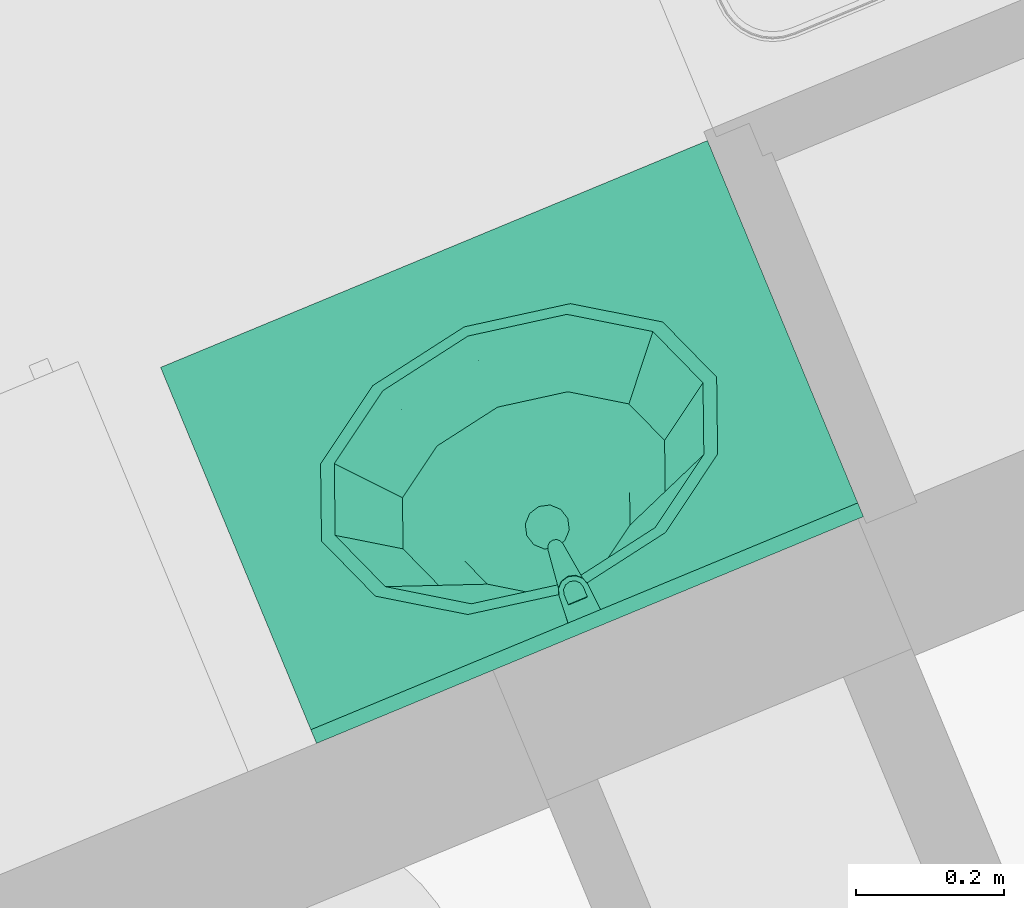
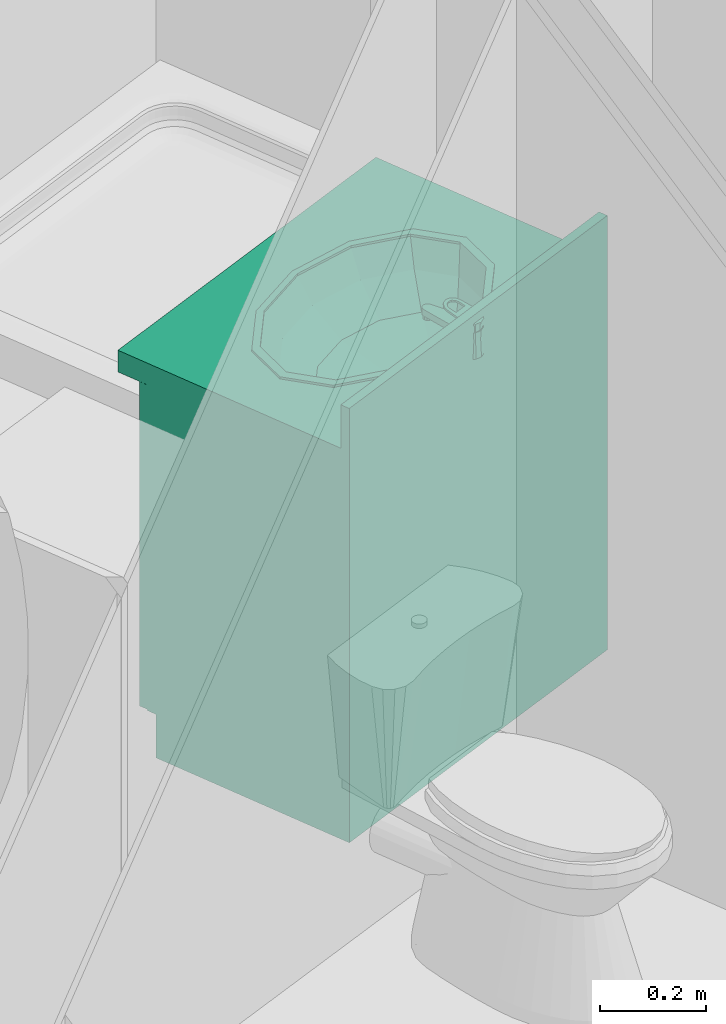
# One storey, part 68 of 90: 1 flow terminal.
"""IFC2X3 building model written with IfcOpenShell, lengths in metres."""

from ifc_helpers import new_model, entity, si_unit, converted_unit, derived_unit, money_unit, direction, frame, origin_with_axes, place, context, subcontext, project, spatial, open_shell, faceted_brep, surface_model, source, transform, mapped, type_object, element, save


model = new_model("IFC2X3")

# Units and contexts
model_context = context("Model", 3, precision=1e-05, world=origin_with_axes(), true_north=direction((0.0, 1.0)))
body_context = subcontext(model_context, "Body", "Model", "MODEL_VIEW")
ifc_project = project(units=[si_unit("LENGTHUNIT", "METRE"), si_unit("AREAUNIT", "SQUARE_METRE"), si_unit("VOLUMEUNIT", "CUBIC_METRE"), converted_unit("PLANEANGLEUNIT", "DEGREE", entity("IfcPlaneAngleMeasure", 0.0174532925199), si_unit("PLANEANGLEUNIT", "RADIAN"), dimensions=[0, 0, 0, 0, 0, 0, 0]), si_unit("SOLIDANGLEUNIT", "STERADIAN"), money_unit("EUR"), converted_unit("TIMEUNIT", "Year", entity("IfcTimeMeasure", 31556926.0), si_unit("TIMEUNIT", "SECOND"), dimensions=[0, 0, 1, 0, 0, 0, 0]), si_unit("MASSUNIT", "GRAM", prefix="KILO"), si_unit("THERMODYNAMICTEMPERATUREUNIT", "DEGREE_CELSIUS"), si_unit("LUMINOUSINTENSITYUNIT", "LUMEN"), si_unit("ENERGYUNIT", "JOULE", prefix="MEGA"), derived_unit("THERMALCONDUCTANCEUNIT", [(si_unit("POWERUNIT", "WATT"), 1), (si_unit("LENGTHUNIT", "METRE"), -1), (si_unit("THERMODYNAMICTEMPERATUREUNIT", "KELVIN"), -1)]), derived_unit("SPECIFICHEATCAPACITYUNIT", [(si_unit("ENERGYUNIT", "JOULE"), 1), (si_unit("MASSUNIT", "GRAM", prefix="KILO"), -1), (si_unit("THERMODYNAMICTEMPERATUREUNIT", "KELVIN"), -1)]), derived_unit("MASSDENSITYUNIT", [(si_unit("MASSUNIT", "GRAM", prefix="KILO"), 1), (si_unit("VOLUMEUNIT", "CUBIC_METRE"), -1)])], contexts=[model_context])

# Site, building, storey
site_placement = place(None, origin_with_axes())
site = spatial("IfcSite", under=ifc_project, at=site_placement, Name="Site", CompositionType="ELEMENT")
building_placement = place(site_placement, origin_with_axes())
building = spatial("IfcBuilding", under=site, at=building_placement, Name="Bâtiment", CompositionType="ELEMENT")
storey_placement = place(building_placement, frame((0.0, 0.0, 2.72), z_axis=(0.0, 0.0, 1.0), x_axis=(1.0, 0.0, 0.0)))
storey = spatial("IfcBuildingStorey", under=building, at=storey_placement, Name="R+1", CompositionType="ELEMENT", Elevation=2.72)

# Flow terminal
sanitary_terminal_type = type_object("IfcSanitaryTerminalType", Name="Lavabo sur meuble 23", PredefinedType="NOTDEFINED")
shared_shape = source(origin_with_axes(), body_context, "Body", "SurfaceModel", [
    faceted_brep([(0.0, 0.09, 0.0), (0.8, 0.09, 0.0), (0.8, 0.09, 0.1), (0.0, 0.09, 0.1), (0.0, 0.55, 0.0), (0.8, 0.55, 0.0), (0.8, 0.55, 0.1), (0.0, 0.55, 0.1)], [[[0, 1, 2, 3]], [[0, 4, 5, 1]], [[1, 5, 6, 2]], [[3, 2, 6, 7]], [[4, 0, 3, 7]], [[5, 4, 7, 6]]]),
    faceted_brep([(0.0, 0.07, 0.1), (0.02, 0.07, 0.1), (0.02, 0.07, 0.12), (0.0, 0.07, 0.12), (0.0, 0.55, 0.1), (0.02, 0.55, 0.1), (0.78, 0.55, 0.1), (0.8, 0.55, 0.1), (0.8, 0.07, 0.1), (0.78, 0.07, 0.1), (0.78, 0.07, 0.12), (0.8, 0.07, 0.12), (0.8, 0.55, 0.12), (0.78, 0.55, 0.12), (0.02, 0.55, 0.12), (0.0, 0.55, 0.12)], [[[0, 1, 2, 3]], [[0, 4, 5, 6, 7, 8, 9, 1]], [[1, 9, 10, 2]], [[3, 2, 10, 11, 12, 13, 14, 15]], [[4, 0, 3, 15]], [[5, 4, 15, 14]], [[6, 5, 14, 13]], [[7, 6, 13, 12]], [[8, 7, 12, 11]], [[9, 8, 11, 10]]]),
    faceted_brep([(0.0, 0.07, 0.12), (0.02, 0.07, 0.12), (0.02, 0.07, 0.85), (0.0, 0.07, 0.85), (0.0, 0.55, 0.12), (0.8, 0.55, 0.12), (0.8, 0.07, 0.12), (0.78, 0.07, 0.12), (0.78, 0.53, 0.12), (0.02, 0.53, 0.12), (0.02, 0.53, 0.85), (0.78, 0.53, 0.85), (0.78, 0.07, 0.85), (0.8, 0.07, 0.85), (0.8, 0.55, 0.85), (0.0, 0.55, 0.85)], [[[0, 1, 2, 3]], [[0, 4, 5, 6, 7, 8, 9, 1]], [[1, 9, 10, 2]], [[3, 2, 10, 11, 12, 13, 14, 15]], [[4, 0, 3, 15]], [[5, 4, 15, 14]], [[6, 5, 14, 13]], [[7, 6, 13, 12]], [[8, 7, 12, 11]], [[9, 8, 11, 10]]]),
    faceted_brep([(0.78, 0.07, 0.323333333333), (0.78, 0.53, 0.323333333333), (0.78, 0.53, 0.343333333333), (0.78, 0.07, 0.343333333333), (0.02, 0.07, 0.323333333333), (0.02, 0.53, 0.323333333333), (0.02, 0.53, 0.343333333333), (0.02, 0.07, 0.343333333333)], [[[0, 1, 2, 3]], [[0, 4, 5, 1]], [[1, 5, 6, 2]], [[3, 2, 6, 7]], [[4, 0, 3, 7]], [[5, 4, 7, 6]]]),
    faceted_brep([(0.78, 0.07, 0.566666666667), (0.78, 0.53, 0.566666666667), (0.78, 0.53, 0.586666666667), (0.78, 0.07, 0.586666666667), (0.02, 0.07, 0.566666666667), (0.02, 0.53, 0.566666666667), (0.02, 0.53, 0.586666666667), (0.02, 0.07, 0.586666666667)], [[[0, 1, 2, 3]], [[0, 4, 5, 1]], [[1, 5, 6, 2]], [[3, 2, 6, 7]], [[4, 0, 3, 7]], [[5, 4, 7, 6]]]),
    faceted_brep([(0.0, 0.55, 0.85), (0.8, 0.55, 0.85), (0.8, 0.0, 0.85), (0.0, 0.0, 0.85), (0.535, 0.144115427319, 0.85), (0.633826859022, 0.21, 0.85), (0.67, 0.3, 0.85), (0.633826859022, 0.39, 0.85), (0.535, 0.455884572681, 0.85), (0.4, 0.48, 0.85), (0.265, 0.455884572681, 0.85), (0.166173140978, 0.39, 0.85), (0.13, 0.3, 0.85), (0.166173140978, 0.21, 0.85), (0.265, 0.144115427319, 0.85), (0.4, 0.12, 0.85), (0.0, 0.55, 0.9), (0.8, 0.55, 0.9), (0.8, 0.0, 0.9), (0.0, 0.0, 0.9), (0.535, 0.144115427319, 0.9), (0.633826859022, 0.21, 0.9), (0.67, 0.3, 0.9), (0.633826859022, 0.39, 0.9), (0.535, 0.455884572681, 0.9), (0.4, 0.48, 0.9), (0.265, 0.455884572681, 0.9), (0.166173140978, 0.39, 0.9), (0.13, 0.3, 0.9), (0.166173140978, 0.21, 0.9), (0.265, 0.144115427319, 0.9), (0.4, 0.12, 0.9)], [[[0, 1, 2, 3], [4, 5, 6, 7, 8, 9, 10, 11, 12, 13, 14, 15]], [[0, 16, 17, 1]], [[1, 17, 18, 2]], [[2, 18, 19, 3]], [[3, 19, 16, 0]], [[20, 21, 5, 4]], [[21, 22, 6, 5]], [[22, 23, 7, 6]], [[23, 24, 8, 7]], [[24, 25, 9, 8]], [[25, 26, 10, 9]], [[26, 27, 11, 10]], [[27, 28, 12, 11]], [[28, 29, 13, 12]], [[29, 30, 14, 13]], [[30, 31, 15, 14]], [[31, 20, 4, 15]], [[18, 17, 16, 19], [24, 23, 22, 21, 20, 31, 30, 29, 28, 27, 26, 25]]]),
    faceted_brep([(0.0, 0.53, 0.9), (0.8, 0.53, 0.9), (0.8, 0.53, 1.0), (0.0, 0.53, 1.0), (0.0, 0.55, 0.9), (0.8, 0.55, 0.9), (0.8, 0.55, 1.0), (0.0, 0.55, 1.0)], [[[0, 1, 2, 3]], [[0, 4, 5, 1]], [[1, 5, 6, 2]], [[3, 2, 6, 7]], [[4, 0, 3, 7]], [[5, 4, 7, 6]]]),
    faceted_brep([(0.689, 0.3, 0.905), (0.689, 0.3, 0.9), (0.650281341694, 0.396691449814, 0.9), (0.650281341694, 0.396691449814, 0.905), (0.650281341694, 0.203308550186, 0.905), (0.650281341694, 0.203308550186, 0.9), (0.5445, 0.132525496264, 0.9), (0.4, 0.106617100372, 0.9), (0.2555, 0.132525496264, 0.9), (0.149718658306, 0.203308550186, 0.9), (0.111, 0.3, 0.9), (0.149718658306, 0.396691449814, 0.9), (0.2555, 0.467474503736, 0.9), (0.4, 0.493382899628, 0.9), (0.5445, 0.467474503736, 0.9), (0.669, 0.3, 0.9), (0.632960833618, 0.39, 0.9), (0.5345, 0.455884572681, 0.9), (0.4, 0.48, 0.9), (0.2655, 0.455884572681, 0.9), (0.167039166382, 0.39, 0.9), (0.131, 0.3, 0.9), (0.167039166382, 0.21, 0.9), (0.2655, 0.144115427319, 0.9), (0.4, 0.12, 0.9), (0.5345, 0.144115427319, 0.9), (0.632960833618, 0.21, 0.9), (0.5445, 0.467474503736, 0.905), (0.4, 0.493382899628, 0.905), (0.2555, 0.467474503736, 0.905), (0.149718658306, 0.396691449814, 0.905), (0.111, 0.3, 0.905), (0.149718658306, 0.203308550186, 0.905), (0.2555, 0.132525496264, 0.905), (0.4, 0.106617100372, 0.905), (0.5445, 0.132525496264, 0.905), (0.669, 0.3, 0.905), (0.632960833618, 0.21, 0.905), (0.5345, 0.144115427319, 0.905), (0.4, 0.12, 0.905), (0.2655, 0.144115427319, 0.905), (0.167039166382, 0.21, 0.905), (0.131, 0.3, 0.905), (0.167039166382, 0.39, 0.905), (0.2655, 0.455884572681, 0.905), (0.4, 0.48, 0.905), (0.5345, 0.455884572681, 0.905), (0.632960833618, 0.39, 0.905)], [[[0, 1, 2, 3]], [[4, 5, 1, 0]], [[1, 5, 6, 7, 8, 9, 10, 11, 12, 13, 14, 2], [15, 16, 17, 18, 19, 20, 21, 22, 23, 24, 25, 26]], [[3, 2, 14, 27]], [[0, 3, 27, 28, 29, 30, 31, 32, 33, 34, 35, 4], [36, 37, 38, 39, 40, 41, 42, 43, 44, 45, 46, 47]], [[35, 6, 5, 4]], [[34, 7, 6, 35]], [[33, 8, 7, 34]], [[32, 9, 8, 33]], [[31, 10, 9, 32]], [[30, 11, 10, 31]], [[29, 12, 11, 30]], [[28, 13, 12, 29]], [[27, 14, 13, 28]], [[47, 16, 15, 36]], [[46, 17, 16, 47]], [[45, 18, 17, 46]], [[44, 19, 18, 45]], [[43, 20, 19, 44]], [[42, 21, 20, 43]], [[41, 22, 21, 42]], [[40, 23, 22, 41]], [[39, 24, 23, 40]], [[38, 25, 24, 39]], [[37, 26, 25, 38]], [[36, 15, 26, 37]]]),
    surface_model("IfcShellBasedSurfaceModel", [(0.4, 0.48, 0.9), (0.4, 0.48, 0.848), (0.52105, 0.458296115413, 0.848), (0.5345, 0.455884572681, 0.9), (0.2655, 0.455884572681, 0.9), (0.27895, 0.458296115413, 0.848), (0.609664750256, 0.399, 0.848), (0.632960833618, 0.39, 0.9), (0.167039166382, 0.39, 0.9), (0.190335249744, 0.399, 0.848), (0.6421, 0.318, 0.848), (0.669, 0.3, 0.9), (0.131, 0.3, 0.9), (0.1579, 0.318, 0.848), (0.609664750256, 0.237, 0.848), (0.632960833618, 0.21, 0.9), (0.167039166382, 0.21, 0.9), (0.190335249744, 0.237, 0.848), (0.52105, 0.177703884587, 0.848), (0.5345, 0.144115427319, 0.9), (0.2655, 0.144115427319, 0.9), (0.27895, 0.177703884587, 0.848), (0.4, 0.156, 0.848), (0.4, 0.12, 0.9)], [open_shell([[[0, 1, 2, 3]], [[4, 5, 1, 0]], [[3, 2, 6, 7]], [[8, 9, 5, 4]], [[7, 6, 10, 11]], [[12, 13, 9, 8]], [[11, 10, 14, 15]], [[16, 17, 13, 12]], [[15, 14, 18, 19]], [[20, 21, 17, 16]], [[19, 18, 22, 23]], [[23, 22, 21, 20]]])]),
    surface_model("IfcShellBasedSurfaceModel", [(0.4, 0.48, 0.848), (0.4, 0.48, 0.796), (0.4956295, 0.462853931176, 0.796), (0.52105, 0.458296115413, 0.848), (0.27895, 0.458296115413, 0.848), (0.3043705, 0.462853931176, 0.796), (0.565635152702, 0.41601, 0.796), (0.609664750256, 0.399, 0.848), (0.190335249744, 0.399, 0.848), (0.234364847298, 0.41601, 0.796), (0.591259, 0.35202, 0.796), (0.6421, 0.318, 0.848), (0.1579, 0.318, 0.848), (0.208741, 0.35202, 0.796), (0.565635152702, 0.28803, 0.796), (0.609664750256, 0.237, 0.848), (0.190335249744, 0.237, 0.848), (0.234364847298, 0.28803, 0.796), (0.4956295, 0.241186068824, 0.796), (0.52105, 0.177703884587, 0.848), (0.27895, 0.177703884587, 0.848), (0.3043705, 0.241186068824, 0.796), (0.4, 0.22404, 0.796), (0.4, 0.156, 0.848)], [open_shell([[[0, 1, 2, 3]], [[4, 5, 1, 0]], [[3, 2, 6, 7]], [[8, 9, 5, 4]], [[7, 6, 10, 11]], [[12, 13, 9, 8]], [[11, 10, 14, 15]], [[16, 17, 13, 12]], [[15, 14, 18, 19]], [[20, 21, 17, 16]], [[19, 18, 22, 23]], [[23, 22, 21, 20]]])]),
    surface_model("IfcShellBasedSurfaceModel", [(0.4, 0.48, 0.796), (0.4, 0.48, 0.77), (0.460246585, 0.469197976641, 0.77), (0.4956295, 0.462853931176, 0.796), (0.3043705, 0.462853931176, 0.796), (0.339753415, 0.469197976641, 0.77), (0.504350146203, 0.4396863, 0.77), (0.565635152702, 0.41601, 0.796), (0.234364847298, 0.41601, 0.796), (0.295649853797, 0.4396863, 0.77), (0.52049317, 0.3993726, 0.77), (0.591259, 0.35202, 0.796), (0.208741, 0.35202, 0.796), (0.27950683, 0.3993726, 0.77), (0.504350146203, 0.3590589, 0.77), (0.565635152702, 0.28803, 0.796), (0.234364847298, 0.28803, 0.796), (0.295649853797, 0.3590589, 0.77), (0.460246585, 0.329547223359, 0.77), (0.4956295, 0.241186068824, 0.796), (0.3043705, 0.241186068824, 0.796), (0.339753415, 0.329547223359, 0.77), (0.4, 0.3187452, 0.77), (0.4, 0.22404, 0.796)], [open_shell([[[0, 1, 2, 3]], [[4, 5, 1, 0]], [[3, 2, 6, 7]], [[8, 9, 5, 4]], [[7, 6, 10, 11]], [[12, 13, 9, 8]], [[11, 10, 14, 15]], [[16, 17, 13, 12]], [[15, 14, 18, 19]], [[20, 21, 17, 16]], [[19, 18, 22, 23]], [[23, 22, 21, 20]]])]),
    surface_model("IfcShellBasedSurfaceModel", [(0.4, 0.48, 0.77), (0.415, 0.425353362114, 0.763), (0.460246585, 0.469197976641, 0.77), (0.4, 0.4293726, 0.763), (0.425980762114, 0.4143726, 0.763), (0.339753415, 0.469197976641, 0.77), (0.504350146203, 0.4396863, 0.77), (0.385, 0.425353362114, 0.763), (0.43, 0.3993726, 0.763), (0.295649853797, 0.4396863, 0.77), (0.52049317, 0.3993726, 0.77), (0.374019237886, 0.4143726, 0.763), (0.425980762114, 0.3843726, 0.763), (0.27950683, 0.3993726, 0.77), (0.504350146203, 0.3590589, 0.77), (0.37, 0.3993726, 0.763), (0.415, 0.373391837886, 0.763), (0.295649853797, 0.3590589, 0.77), (0.460246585, 0.329547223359, 0.77), (0.374019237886, 0.3843726, 0.763), (0.4, 0.3693726, 0.763), (0.339753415, 0.329547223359, 0.77), (0.4, 0.3187452, 0.77), (0.385, 0.373391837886, 0.763)], [open_shell([[[0, 1, 2]], [[0, 3, 1]], [[2, 1, 4]], [[5, 3, 0]], [[2, 4, 6]], [[5, 7, 3]], [[6, 4, 8]], [[9, 7, 5]], [[6, 8, 10]], [[9, 11, 7]], [[10, 8, 12]], [[13, 11, 9]], [[10, 12, 14]], [[13, 15, 11]], [[14, 12, 16]], [[17, 15, 13]], [[14, 16, 18]], [[17, 19, 15]], [[18, 16, 20]], [[21, 19, 17]], [[18, 20, 22]], [[21, 23, 19]], [[22, 20, 23]], [[22, 23, 21]]])]),
    surface_model("IfcShellBasedSurfaceModel", [(0.43, 0.3993726, 0.763), (0.43, 0.3993726, 0.758), (0.425980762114, 0.4143726, 0.758), (0.425980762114, 0.4143726, 0.763), (0.425980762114, 0.3843726, 0.763), (0.425980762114, 0.3843726, 0.758), (0.415, 0.373391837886, 0.758), (0.4, 0.3693726, 0.758), (0.385, 0.373391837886, 0.758), (0.374019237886, 0.3843726, 0.758), (0.37, 0.3993726, 0.758), (0.374019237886, 0.4143726, 0.758), (0.385, 0.425353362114, 0.758), (0.4, 0.4293726, 0.758), (0.415, 0.425353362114, 0.758), (0.415, 0.425353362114, 0.763), (0.415, 0.373391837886, 0.763), (0.4, 0.3693726, 0.763), (0.385, 0.373391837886, 0.763), (0.374019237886, 0.3843726, 0.763), (0.37, 0.3993726, 0.763), (0.374019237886, 0.4143726, 0.763), (0.385, 0.425353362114, 0.763), (0.4, 0.4293726, 0.763)], [open_shell([[[0, 1, 2, 3]], [[4, 5, 1, 0]], [[1, 5, 6, 7, 8, 9, 10, 11, 12, 13, 14, 2]], [[3, 2, 14, 15]], [[16, 6, 5, 4]], [[17, 7, 6, 16]], [[18, 8, 7, 17]], [[19, 9, 8, 18]], [[20, 10, 9, 19]], [[21, 11, 10, 20]], [[22, 12, 11, 21]], [[23, 13, 12, 22]], [[15, 14, 13, 23]]])]),
    faceted_brep([(0.4125, 0.554150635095, 0.9), (0.4, 0.5575, 0.9), (0.4, 0.553701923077, 0.975961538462), (0.410587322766, 0.550837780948, 0.976507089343), (0.421650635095, 0.545, 0.9), (0.425, 0.5325, 0.9), (0.421650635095, 0.52, 0.9), (0.4125, 0.510849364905, 0.9), (0.4, 0.5075, 0.9), (0.3875, 0.510849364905, 0.9), (0.378349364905, 0.52, 0.9), (0.375, 0.5325, 0.9), (0.378349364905, 0.545, 0.9), (0.3875, 0.554150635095, 0.9), (0.389412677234, 0.550837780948, 0.976507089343), (0.381726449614, 0.543050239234, 0.977990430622), (0.379, 0.5325, 0.98), (0.381899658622, 0.522049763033, 0.981990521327), (0.389585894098, 0.514462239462, 0.983435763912), (0.4, 0.511698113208, 0.983962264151), (0.410414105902, 0.514462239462, 0.983435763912), (0.418100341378, 0.522049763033, 0.981990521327), (0.421, 0.5325, 0.98), (0.418273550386, 0.543050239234, 0.977990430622)], [[[0, 1, 2, 3]], [[0, 4, 5, 6, 7, 8, 9, 10, 11, 12, 13, 1]], [[1, 13, 14, 2]], [[3, 2, 14, 15, 16, 17, 18, 19, 20, 21, 22, 23]], [[4, 0, 3, 23]], [[5, 4, 23, 22]], [[6, 5, 22, 21]], [[7, 6, 21, 20]], [[8, 7, 20, 19]], [[9, 8, 19, 18]], [[10, 9, 18, 17]], [[11, 10, 17, 16]], [[12, 11, 16, 15]], [[13, 12, 15, 14]]]),
    faceted_brep([(0.409, 0.4295, 0.935), (0.407794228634, 0.434, 0.935), (0.407794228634, 0.434, 0.945), (0.409, 0.4295, 0.945), (0.407794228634, 0.425, 0.935), (0.4045, 0.421705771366, 0.935), (0.4, 0.4205, 0.935), (0.3955, 0.421705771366, 0.935), (0.392205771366, 0.425, 0.935), (0.391, 0.4295, 0.935), (0.392205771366, 0.434, 0.935), (0.3955, 0.437294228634, 0.935), (0.4, 0.4385, 0.935), (0.4045, 0.437294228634, 0.935), (0.4045, 0.437294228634, 0.945), (0.4, 0.4385, 0.945), (0.3955, 0.437294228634, 0.945), (0.392205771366, 0.434, 0.945), (0.391, 0.4295, 0.945), (0.392205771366, 0.425, 0.945), (0.3955, 0.421705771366, 0.945), (0.4, 0.4205, 0.945), (0.4045, 0.421705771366, 0.945), (0.407794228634, 0.425, 0.945)], [[[0, 1, 2, 3]], [[0, 4, 5, 6, 7, 8, 9, 10, 11, 12, 13, 1]], [[1, 13, 14, 2]], [[3, 2, 14, 15, 16, 17, 18, 19, 20, 21, 22, 23]], [[4, 0, 3, 23]], [[5, 4, 23, 22]], [[6, 5, 22, 21]], [[7, 6, 21, 20]], [[8, 7, 20, 19]], [[9, 8, 19, 18]], [[10, 9, 18, 17]], [[11, 10, 17, 16]], [[12, 11, 16, 15]], [[13, 12, 15, 14]]]),
    faceted_brep([(0.387128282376, 0.552756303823, 0.96), (0.378272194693, 0.54269320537, 0.96), (0.3761946, 0.5294501, 0.96), (0.389088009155, 0.428111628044, 0.96), (0.390971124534, 0.423216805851, 0.96), (0.394906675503, 0.419750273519, 0.96), (0.400000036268, 0.41850003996, 0.96), (0.405093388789, 0.419750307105, 0.96), (0.409028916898, 0.423216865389, 0.96), (0.410912, 0.4281117, 0.96), (0.423805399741, 0.529450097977, 0.96), (0.421727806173, 0.542693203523, 0.96), (0.412871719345, 0.552756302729, 0.96), (0.40000000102, 0.556499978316, 0.96), (0.411, 0.551552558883, 0.96), (0.419052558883, 0.5435, 0.96), (0.422, 0.5325, 0.96), (0.419052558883, 0.5215, 0.96), (0.411, 0.513447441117, 0.96), (0.4, 0.5105, 0.96), (0.389, 0.513447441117, 0.96), (0.380947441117, 0.5215, 0.96), (0.378, 0.5325, 0.96), (0.380947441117, 0.5435, 0.96), (0.389, 0.551552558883, 0.96), (0.4, 0.5545, 0.96), (0.378272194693, 0.54269320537, 0.945), (0.387128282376, 0.552756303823, 0.945), (0.3761946, 0.5294501, 0.945), (0.389088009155, 0.428111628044, 0.945), (0.390971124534, 0.423216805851, 0.945), (0.394906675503, 0.419750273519, 0.945), (0.400000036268, 0.41850003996, 0.945), (0.405093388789, 0.419750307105, 0.945), (0.409028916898, 0.423216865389, 0.945), (0.410912, 0.4281117, 0.945), (0.423805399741, 0.529450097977, 0.945), (0.421727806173, 0.542693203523, 0.945), (0.412871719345, 0.552756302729, 0.945), (0.40000000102, 0.556499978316, 0.945), (0.411375, 0.552202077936, 0.945), (0.419702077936, 0.543875, 0.945), (0.42275, 0.5325, 0.945), (0.419702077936, 0.521125, 0.945), (0.411375, 0.512797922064, 0.945), (0.4, 0.50975, 0.945), (0.388625, 0.512797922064, 0.945), (0.380297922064, 0.521125, 0.945), (0.37725, 0.5325, 0.945), (0.380297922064, 0.543875, 0.945), (0.388625, 0.552202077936, 0.945), (0.4, 0.55525, 0.945)], [[[0, 1, 2, 3, 4, 5, 6, 7, 8, 9, 10, 11, 12, 13], [14, 15, 16, 17, 18, 19, 20, 21, 22, 23, 24, 25]], [[26, 1, 0, 27]], [[28, 2, 1, 26]], [[29, 3, 2, 28]], [[30, 4, 3, 29]], [[31, 5, 4, 30]], [[32, 6, 5, 31]], [[33, 7, 6, 32]], [[34, 8, 7, 33]], [[35, 9, 8, 34]], [[36, 10, 9, 35]], [[37, 11, 10, 36]], [[38, 12, 11, 37]], [[39, 13, 12, 38]], [[27, 0, 13, 39]], [[40, 41, 15, 14]], [[41, 42, 16, 15]], [[42, 43, 17, 16]], [[43, 44, 18, 17]], [[44, 45, 19, 18]], [[20, 19, 45, 46]], [[21, 20, 46, 47]], [[22, 21, 47, 48]], [[23, 22, 48, 49]], [[24, 23, 49, 50]], [[50, 51, 25, 24]], [[51, 40, 14, 25]], [[32, 31, 30, 29, 28, 26, 27, 39, 38, 37, 36, 35, 34, 33], [44, 43, 42, 41, 40, 51, 50, 49, 48, 47, 46, 45]]]),
    faceted_brep([(0.423893, 0.53080743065, 0.980322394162), (0.421296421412, 0.543274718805, 0.977947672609), (0.421296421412, 0.544023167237, 0.981877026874), (0.423893, 0.531555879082, 0.984251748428), (0.420945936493, 0.490663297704, 0.987968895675), (0.417663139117, 0.480985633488, 0.989812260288), (0.410061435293, 0.474036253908, 0.991135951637), (0.399999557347, 0.47151438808, 0.991616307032), (0.389937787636, 0.474036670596, 0.991135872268), (0.382336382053, 0.480986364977, 0.989812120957), (0.379054, 0.490664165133, 0.987968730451), (0.376106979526, 0.530807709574, 0.980322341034), (0.378703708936, 0.543274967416, 0.977947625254), (0.38752831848, 0.552591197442, 0.976173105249), (0.400000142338, 0.556031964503, 0.975517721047), (0.41247192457, 0.552591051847, 0.976173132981), (0.414, 0.506959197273, 0.984864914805), (0.386, 0.506959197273, 0.984864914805), (0.386, 0.492143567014, 0.987686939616), (0.387875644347, 0.485267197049, 0.988996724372), (0.393, 0.480233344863, 0.989955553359), (0.4, 0.478390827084, 0.990306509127), (0.407, 0.480233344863, 0.989955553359), (0.412124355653, 0.485267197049, 0.988996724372), (0.414, 0.492143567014, 0.987686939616), (0.41247192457, 0.553339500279, 0.980102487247), (0.400000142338, 0.556780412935, 0.979447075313), (0.38752831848, 0.553339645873, 0.980102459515), (0.378703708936, 0.544023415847, 0.98187697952), (0.376106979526, 0.531556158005, 0.984251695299), (0.379054, 0.491412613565, 0.991898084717), (0.382336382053, 0.481734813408, 0.993741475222), (0.389937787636, 0.474785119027, 0.995065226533), (0.399999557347, 0.472262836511, 0.995545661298), (0.410061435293, 0.47478470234, 0.995065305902), (0.417663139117, 0.48173408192, 0.993741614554), (0.420945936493, 0.491411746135, 0.991898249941), (0.414, 0.507707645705, 0.988794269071), (0.414, 0.492892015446, 0.991616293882), (0.412124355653, 0.486015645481, 0.992926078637), (0.407, 0.480981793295, 0.993884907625), (0.4, 0.479139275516, 0.994235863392), (0.393, 0.480981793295, 0.993884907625), (0.387875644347, 0.486015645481, 0.992926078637), (0.386, 0.492892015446, 0.991616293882), (0.386, 0.507707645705, 0.988794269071)], [[[0, 1, 2, 3]], [[0, 4, 5, 6, 7, 8, 9, 10, 11, 12, 13, 14, 15, 1], [16, 17, 18, 19, 20, 21, 22, 23, 24]], [[1, 15, 25, 2]], [[3, 2, 25, 26, 27, 28, 29, 30, 31, 32, 33, 34, 35, 36], [37, 38, 39, 40, 41, 42, 43, 44, 45]], [[4, 0, 3, 36]], [[5, 4, 36, 35]], [[6, 5, 35, 34]], [[7, 6, 34, 33]], [[8, 7, 33, 32]], [[9, 8, 32, 31]], [[10, 9, 31, 30]], [[11, 10, 30, 29]], [[12, 11, 29, 28]], [[13, 12, 28, 27]], [[14, 13, 27, 26]], [[15, 14, 26, 25]], [[17, 16, 37, 45]], [[18, 17, 45, 44]], [[19, 18, 44, 43]], [[20, 19, 43, 42]], [[21, 20, 42, 41]], [[22, 21, 41, 40]], [[23, 22, 40, 39]], [[24, 23, 39, 38]], [[16, 24, 38, 37]]]),
    faceted_brep([(0.0015, 0.07, 0.1015), (0.3985, 0.07, 0.1015), (0.3985, 0.05, 0.1015), (0.0015, 0.05, 0.1015), (0.0015, 0.07, 0.8485), (0.3985, 0.07, 0.8485), (0.3985, 0.05, 0.8485), (0.0015, 0.05, 0.8485)], [[[0, 1, 2, 3]], [[0, 4, 5, 1]], [[1, 5, 6, 2]], [[3, 2, 6, 7]], [[4, 0, 3, 7]], [[5, 4, 7, 6]]]),
    faceted_brep([(0.358892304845, 0.05, 0.7855), (0.3545, 0.05, 0.781107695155), (0.3485, 0.05, 0.7795), (0.3425, 0.05, 0.781107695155), (0.338107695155, 0.05, 0.7855), (0.3365, 0.05, 0.7915), (0.338107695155, 0.05, 0.7975), (0.3425, 0.05, 0.801892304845), (0.3485, 0.05, 0.8035), (0.3545, 0.05, 0.801892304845), (0.358892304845, 0.05, 0.7975), (0.3605, 0.05, 0.7915), (0.358892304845, 0.025, 0.7855), (0.3545, 0.025, 0.781107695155), (0.3485, 0.025, 0.7795), (0.3425, 0.025, 0.781107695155), (0.338107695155, 0.025, 0.7855), (0.3365, 0.025, 0.7915), (0.338107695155, 0.025, 0.7975), (0.3425, 0.025, 0.801892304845), (0.3485, 0.025, 0.8035), (0.3545, 0.025, 0.801892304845), (0.358892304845, 0.025, 0.7975), (0.3605, 0.025, 0.7915)], [[[0, 1, 2, 3, 4, 5, 6, 7, 8, 9, 10, 11]], [[1, 0, 12, 13]], [[2, 1, 13, 14]], [[3, 2, 14, 15]], [[4, 3, 15, 16]], [[5, 4, 16, 17]], [[6, 5, 17, 18]], [[7, 6, 18, 19]], [[8, 7, 19, 20]], [[9, 8, 20, 21]], [[10, 9, 21, 22]], [[11, 10, 22, 23]], [[0, 11, 23, 12]], [[12, 23, 22, 21, 20, 19, 18, 17, 16, 15, 14, 13]]]),
    faceted_brep([(0.7985, 0.07, 0.1015), (0.7985, 0.05, 0.1015), (0.4015, 0.05, 0.1015), (0.4015, 0.07, 0.1015), (0.7985, 0.07, 0.8485), (0.7985, 0.05, 0.8485), (0.4015, 0.05, 0.8485), (0.4015, 0.07, 0.8485)], [[[0, 1, 2, 3]], [[4, 5, 1, 0]], [[1, 5, 6, 2]], [[3, 2, 6, 7]], [[0, 3, 7, 4]], [[7, 6, 5, 4]]]),
    faceted_brep([(0.441107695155, 0.05, 0.7855), (0.4395, 0.05, 0.7915), (0.441107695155, 0.05, 0.7975), (0.4455, 0.05, 0.801892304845), (0.4515, 0.05, 0.8035), (0.4575, 0.05, 0.801892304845), (0.461892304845, 0.05, 0.7975), (0.4635, 0.05, 0.7915), (0.461892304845, 0.05, 0.7855), (0.4575, 0.05, 0.781107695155), (0.4515, 0.05, 0.7795), (0.4455, 0.05, 0.781107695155), (0.441107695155, 0.025, 0.7855), (0.4395, 0.025, 0.7915), (0.441107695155, 0.025, 0.7975), (0.4455, 0.025, 0.801892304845), (0.4515, 0.025, 0.8035), (0.4575, 0.025, 0.801892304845), (0.461892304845, 0.025, 0.7975), (0.4635, 0.025, 0.7915), (0.461892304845, 0.025, 0.7855), (0.4575, 0.025, 0.781107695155), (0.4515, 0.025, 0.7795), (0.4455, 0.025, 0.781107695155)], [[[0, 1, 2, 3, 4, 5, 6, 7, 8, 9, 10, 11]], [[0, 12, 13, 1]], [[1, 13, 14, 2]], [[2, 14, 15, 3]], [[3, 15, 16, 4]], [[4, 16, 17, 5]], [[5, 17, 18, 6]], [[6, 18, 19, 7]], [[7, 19, 20, 8]], [[8, 20, 21, 9]], [[9, 21, 22, 10]], [[10, 22, 23, 11]], [[11, 23, 12, 0]], [[12, 23, 22, 21, 20, 19, 18, 17, 16, 15, 14, 13]]]),
])
flow_terminal_placement = place(storey_placement, frame((-29.3284760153, -20.2613277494, 0.0), z_axis=(0.0, 0.0, 1.0), x_axis=(-0.923701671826, -0.383112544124, 0.0)))
element("IfcFlowTerminal", 1, at=flow_terminal_placement, inside=storey, type_object=sanitary_terminal_type, Name="MOB-002", ObjectType="SANITARY_TERMINAL", context=body_context, shape_type="MappedRepresentation", body=[
    mapped(shared_shape, transform((0.0, 0.0, 0.0))),
])

save(model, "model.ifc")
